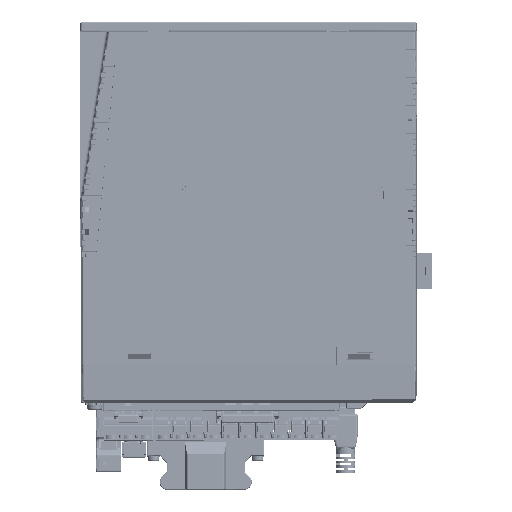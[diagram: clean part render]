
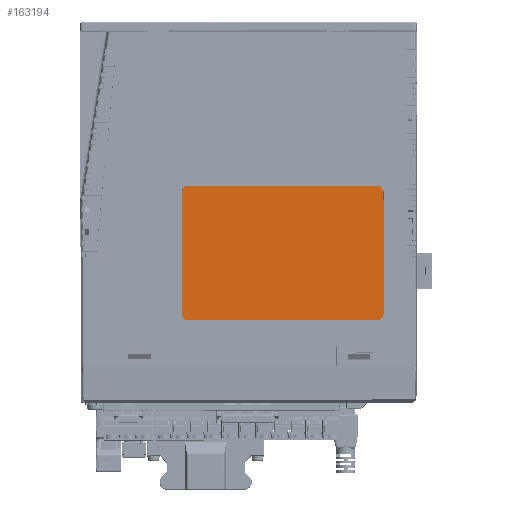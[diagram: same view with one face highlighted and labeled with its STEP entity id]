
A CAD part, front view. The second image highlights one B-rep face of the part: STEP entity #163194.
In plain terms, the highlighted planar face has unit normal (0, -1, 0).
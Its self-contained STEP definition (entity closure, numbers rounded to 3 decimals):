
#152094=DIRECTION('',(0.,0.,-1.));
#152095=VECTOR('',#152094,54.);
#152096=CARTESIAN_POINT('',(40.803,-43.872,
179.));
#152097=LINE('',#152096,#152095);
#152098=CARTESIAN_POINT('',(37.803,-43.872,179.));
#152099=DIRECTION('',(0.,-1.,0.));
#152100=DIRECTION('',(1.,0.,0.));
#152101=AXIS2_PLACEMENT_3D('',#152098,#152099,#152100);
#152103=CARTESIAN_POINT('',(37.803,-43.872,125.));
#152104=DIRECTION('',(0.,-1.,0.));
#152105=DIRECTION('',(0.,0.,-1.));
#152106=AXIS2_PLACEMENT_3D('',#152103,#152104,#152105);
#152108=CARTESIAN_POINT('',(-46.197,-43.872,125.));
#152109=DIRECTION('',(0.,-1.,0.));
#152110=DIRECTION('',(-1.,0.,0.));
#152111=AXIS2_PLACEMENT_3D('',#152108,#152109,#152110);
#152113=CARTESIAN_POINT('',(-46.197,-43.872,179.));
#152114=DIRECTION('',(0.,-1.,0.));
#152115=DIRECTION('',(0.,0.,1.));
#152116=AXIS2_PLACEMENT_3D('',#152113,#152114,#152115);
#152118=DIRECTION('',(1.,0.,0.));
#152119=VECTOR('',#152118,84.);
#152120=CARTESIAN_POINT('',(-46.197,-43.872,182.));
#152121=LINE('',#152120,#152119);
#152130=DIRECTION('',(0.,0.,1.));
#152131=VECTOR('',#152130,54.);
#152132=CARTESIAN_POINT('',(-49.197,-43.872,
125.));
#152133=LINE('',#152132,#152131);
#152142=DIRECTION('',(-1.,0.,0.));
#152143=VECTOR('',#152142,84.);
#152144=CARTESIAN_POINT('',(37.803,-43.872,122.));
#152145=LINE('',#152144,#152143);
#152167=CARTESIAN_POINT('',(40.803,-43.872,
125.));
#152169=VERTEX_POINT('',#152167);
#152608=CARTESIAN_POINT('',(40.803,-43.872,
179.));
#152610=VERTEX_POINT('',#152608);
#152785=CARTESIAN_POINT('',(-49.197,-43.872,
125.));
#152786=CARTESIAN_POINT('',(-46.197,-43.872,
122.));
#152787=VERTEX_POINT('',#152785);
#152788=VERTEX_POINT('',#152786);
#152819=CARTESIAN_POINT('',(-46.197,-43.872,
182.));
#152820=CARTESIAN_POINT('',(-49.197,-43.872,
179.));
#152821=VERTEX_POINT('',#152819);
#152822=VERTEX_POINT('',#152820);
#153021=CARTESIAN_POINT('',(37.803,-43.872,182.));
#153022=VERTEX_POINT('',#153021);
#153730=CARTESIAN_POINT('',(37.803,-43.872,122.));
#153731=VERTEX_POINT('',#153730);
#163173=CARTESIAN_POINT('',(-19.197,-43.872,176.25));
#163174=DIRECTION('',(0.,-1.,0.));
#163175=DIRECTION('',(1.,0.,0.));
#163176=AXIS2_PLACEMENT_3D('',#163173,#163174,#163175);
#163177=PLANE('',#163176);
#163179=ORIENTED_EDGE('',*,*,#163178,.T.);
#163181=ORIENTED_EDGE('',*,*,#163180,.F.);
#163182=ORIENTED_EDGE('',*,*,#163165,.T.);
#163183=ORIENTED_EDGE('',*,*,#163154,.F.);
#163185=ORIENTED_EDGE('',*,*,#163184,.T.);
#163187=ORIENTED_EDGE('',*,*,#163186,.F.);
#163189=ORIENTED_EDGE('',*,*,#163188,.T.);
#163191=ORIENTED_EDGE('',*,*,#163190,.F.);
#163192=EDGE_LOOP('',(#163179,#163181,#163182,#163183,#163185,#163187,#163189,
#163191));
#163193=FACE_OUTER_BOUND('',#163192,.F.);
#163194=ADVANCED_FACE('',(#163193),#163177,.T.);
#152102=CIRCLE('',#152101,3.);
#152107=CIRCLE('',#152106,3.);
#152112=CIRCLE('',#152111,3.);
#152117=CIRCLE('',#152116,3.);
#163154=EDGE_CURVE('',#153731,#152169,#152107,.T.);
#163165=EDGE_CURVE('',#152610,#152169,#152097,.T.);
#163178=EDGE_CURVE('',#152821,#153022,#152121,.T.);
#163180=EDGE_CURVE('',#152610,#153022,#152102,.T.);
#163184=EDGE_CURVE('',#153731,#152788,#152145,.T.);
#163186=EDGE_CURVE('',#152787,#152788,#152112,.T.);
#163188=EDGE_CURVE('',#152787,#152822,#152133,.T.);
#163190=EDGE_CURVE('',#152821,#152822,#152117,.T.);
